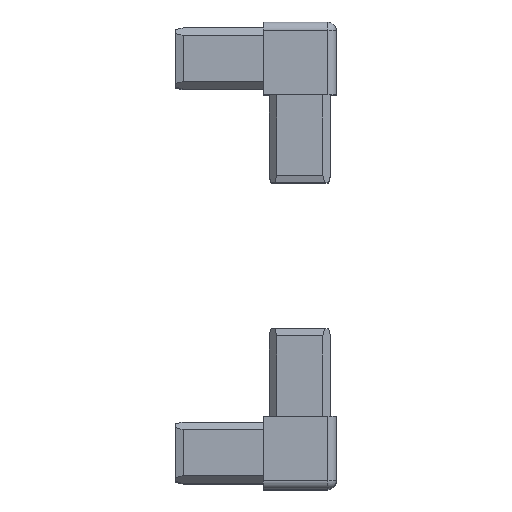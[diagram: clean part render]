
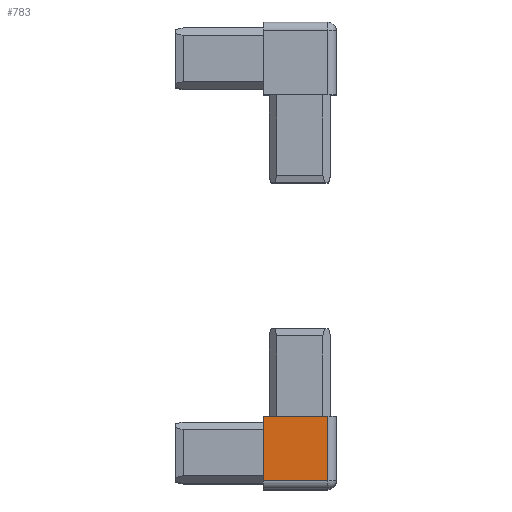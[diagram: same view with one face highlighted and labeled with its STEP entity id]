
A CAD part, top view. The second image highlights one B-rep face of the part: STEP entity #783.
In plain terms, the highlighted planar face has unit normal (0, 0, 1) as drawn and (0, 0, -1) by its records, which use the part's own axes.
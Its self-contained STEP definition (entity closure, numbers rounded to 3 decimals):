
#31 = CARTESIAN_POINT ( 'NONE',  ( 12.5, 9.5, -12.5 ) ) ;
#142 = CARTESIAN_POINT ( 'NONE',  ( 12.5, -12.5, -12.5 ) ) ;
#306 = CARTESIAN_POINT ( 'NONE',  ( -9.5, -12.5, -12.5 ) ) ;
#328 = CARTESIAN_POINT ( 'NONE',  ( -9.5, 9.5, -12.5 ) ) ;
#335 = LINE ( 'NONE', #606, #376 ) ;
#358 = CARTESIAN_POINT ( 'NONE',  ( -12.5, -12.5, -12.5 ) ) ;
#375 = DIRECTION ( 'NONE',  ( 0., 0., 1. ) ) ;
#376 = VECTOR ( 'NONE', #760, 1000. ) ;
#385 = ORIENTED_EDGE ( 'NONE', *, *, #389, .T. ) ;
#389 = EDGE_CURVE ( 'NONE', #957, #1718, #1727, .T. ) ;
#552 = CARTESIAN_POINT ( 'NONE',  ( -12.5, -12.5, -12.5 ) ) ;
#555 = ORIENTED_EDGE ( 'NONE', *, *, #1436, .T. ) ;
#606 = CARTESIAN_POINT ( 'NONE',  ( -9.5, -12.5, -12.5 ) ) ;
#623 = VECTOR ( 'NONE', #790, 1000. ) ;
#655 = AXIS2_PLACEMENT_3D ( 'NONE', #552, #375, #1133 ) ;
#760 = DIRECTION ( 'NONE',  ( 0., 1., 0. ) ) ;
#783 = ADVANCED_FACE ( 'NONE', ( #1384 ), #1681, .F. ) ;
#790 = DIRECTION ( 'NONE',  ( 1., 0., 0. ) ) ;
#816 = VECTOR ( 'NONE', #1284, 1000. ) ;
#872 = VERTEX_POINT ( 'NONE', #142 ) ;
#920 = VECTOR ( 'NONE', #1335, 1000. ) ;
#957 = VERTEX_POINT ( 'NONE', #328 ) ;
#1133 = DIRECTION ( 'NONE',  ( 1., 0., 0. ) ) ;
#1284 = DIRECTION ( 'NONE',  ( 1., 0., 0. ) ) ;
#1335 = DIRECTION ( 'NONE',  ( 0., 1., 0. ) ) ;
#1378 = EDGE_CURVE ( 'NONE', #872, #1718, #1655, .T. ) ;
#1384 = FACE_OUTER_BOUND ( 'NONE', #1524, .T. ) ;
#1414 = CARTESIAN_POINT ( 'NONE',  ( -12.5, 9.5, -12.5 ) ) ;
#1436 = EDGE_CURVE ( 'NONE', #1545, #957, #335, .T. ) ;
#1491 = ORIENTED_EDGE ( 'NONE', *, *, #1518, .F. ) ;
#1518 = EDGE_CURVE ( 'NONE', #1545, #872, #1812, .T. ) ;
#1524 = EDGE_LOOP ( 'NONE', ( #1491, #555, #385, #1707 ) ) ;
#1545 = VERTEX_POINT ( 'NONE', #306 ) ;
#1655 = LINE ( 'NONE', #1767, #920 ) ;
#1681 = PLANE ( 'NONE',  #655 ) ;
#1707 = ORIENTED_EDGE ( 'NONE', *, *, #1378, .F. ) ;
#1718 = VERTEX_POINT ( 'NONE', #31 ) ;
#1727 = LINE ( 'NONE', #1414, #816 ) ;
#1767 = CARTESIAN_POINT ( 'NONE',  ( 12.5, -42.5, -12.5 ) ) ;
#1812 = LINE ( 'NONE', #358, #623 ) ;
